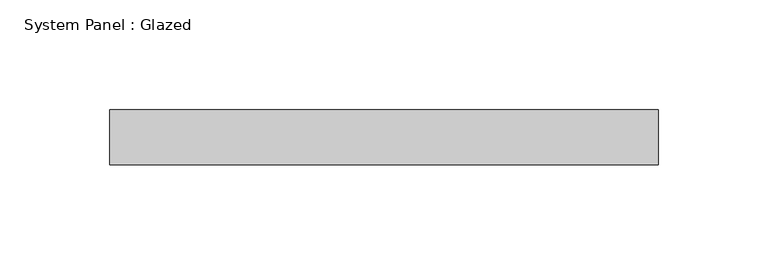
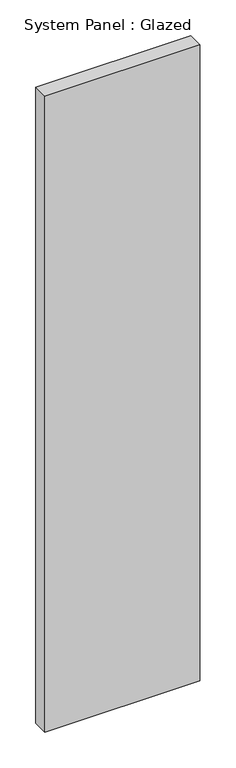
"""IFC4 building model written with IfcOpenShell, lengths in millimetres: plate geometry, System Panel : Glazed."""

from ifc_helpers import new_model, si_unit, origin, origin_with_axes, place, context, project, spatial, polyline, outline, extrude, source, transform, mapped, element, save


def system_panel_glazed_2bdfee25(model_context):
    return source(origin(), model_context, "Body", "SweptSolid", [
        extrude(outline(polyline([(125.0, 24.5), (-125.0, 24.5), (-125.0, 49.5), (125.0, 49.5), (125.0, 24.5)])), origin_with_axes(), (0.0, 0.0, 1.0), 1083.7524816),
    ])


if __name__ == "__main__":
    model = new_model("IFC4")
    model_context = context("Model", 3, world=origin())
    ifc_project = project(units=[si_unit("LENGTHUNIT", "METRE", prefix="MILLI")], contexts=[model_context])
    site = spatial("IfcSite", under=ifc_project)
    building = spatial("IfcBuilding", under=site)
    placement = place(None, origin())
    system_panel_glazed_shape = system_panel_glazed_2bdfee25(model_context)
    element("IfcPlate", 1, ObjectType="System Panel : Glazed", at=placement, inside=building, context=model_context, shape_type="MappedRepresentation", body=[
        mapped(system_panel_glazed_shape, transform((0.0, 0.0, 0.0), x_axis=(1.0, 0.0, 0.0), y_axis=(0.0, 1.0, 0.0), z_axis=(0.0, 0.0, 1.0))),
    ])
    save(model, "model.ifc")
